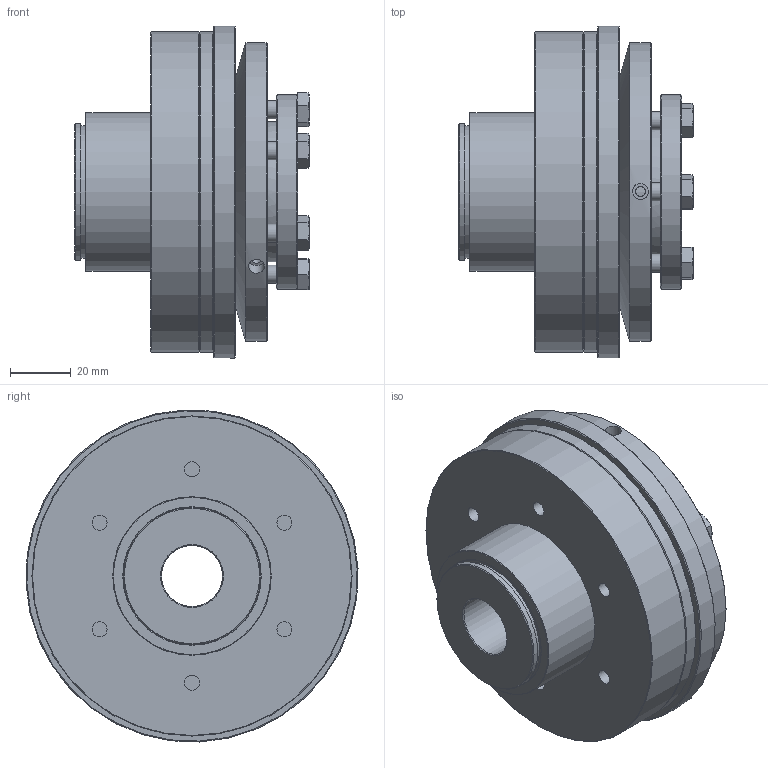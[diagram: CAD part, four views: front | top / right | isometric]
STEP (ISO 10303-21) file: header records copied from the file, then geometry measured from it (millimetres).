
FILE_DESCRIPTION( ( 'Unknown' ), '1' );
FILE_NAME( 'C:/Users/TWalzel/Documents/CAD-Daten/KBK-CI/200/KBK C-I-200.stp', 'Unknown', ( 'Unknown' ), ( 'Unknown' ), 'PSStep 16.0.42', 'Unknown', ' ' );
FILE_SCHEMA( ( 'AUTOMOTIVE_DESIGN { 1 0 10303 214 1 1 1 1 }' ) );
Length unit declared in the file: millimetre
Products named in the file (11): din_en_24017_m6x25_0; Konusbuchse 200; Druckring 200; Stellring 200; Assem1; Flansch-Gleitlager  CK-200; Grundkörper C-I-200_1
Assembly tree (15 placements, depth 3):
  Assem1
    Flansch-Gleitlager  CK-200
    Grundkörper C-I-200_1
    Konusbuchse 200
      Konusbuchse 200
    Stellring 200
      Stellring 200
    Druckring 200
      Druckring 200
    din_en_24017_m6x25_0  x6
      din_en_24017_m6x25_0
Bounding box: 76.99 x 108.88 x 108.88 mm (x, y, z)
Volume: 355527.2 mm3; surface area: 109468 mm2
Topology: 11 solids, 11 shells, 273 faces, 572 edges, 363 vertices
Faces by surface type: plane 118, cone 81, cylinder 66, torus 8
Full cylindrical faces by diameter (mm): 3.242 x3, 4.917 x21, 5.2 x6, 6 x6, 6.5 x6, 8.8 x6, 20 x2, 43.5 x1, 45 x3, 46 x1, 52 x1, 62 x1, 64 x1, 66 x2, 77 x1, 90 x1, 98 x1, 105 x2, 109 x1
Entity records: 5722 total; most frequent: CARTESIAN_POINT 1027, DIRECTION 738, ORIENTED_EDGE 460, AXIS2_PLACEMENT_3D 351, EDGE_LOOP 312, EDGE_CURVE 230, FACE_OUTER_BOUND 222, VERTEX_POINT 194
